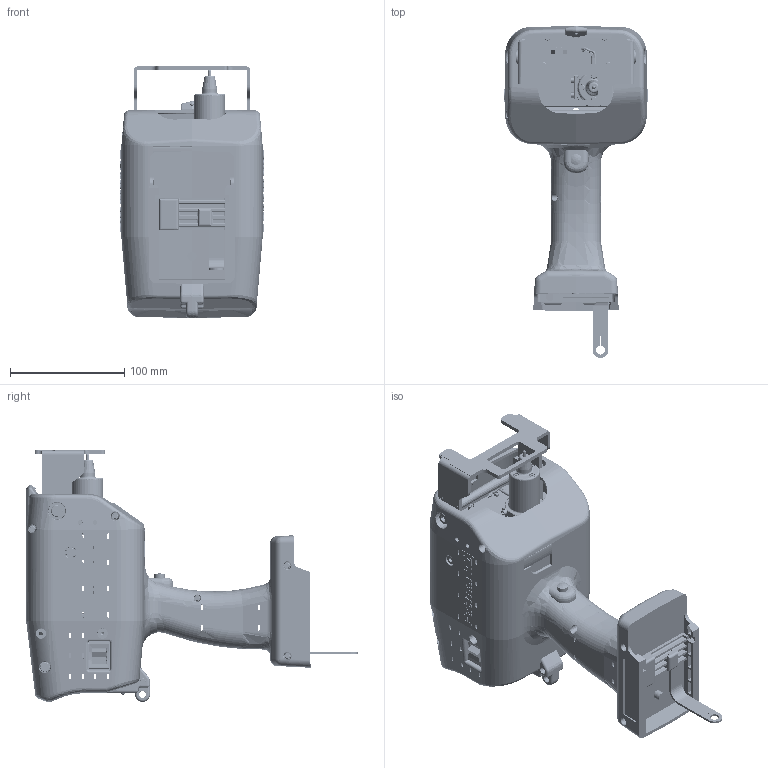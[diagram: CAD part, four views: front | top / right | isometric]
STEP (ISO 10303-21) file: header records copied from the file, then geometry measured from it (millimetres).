
FILE_DESCRIPTION (( 'STEP AP203' ), '1' );
FILE_NAME ('Patmark2 v1 -A AC.STEP', '2026-07-08T23:12:55', ( '' ), ( '' ), 'SwSTEP 2.0', 'SolidWorks 2023', '' );
FILE_SCHEMA (( 'CONFIG_CONTROL_DESIGN' ));
Length unit declared in the file: millimetre
Products named in the file (66): 140000340129 取付枠(樹脂); TCQ-G-00003-10 v1 ソレノイド取付板; TCQ-G-00001-5 v3 ソレノイドカバー; cap3_6; TCQ-K3-02700G-25 ナットホルダーカバー; TCQ-G-00001-7 ボビン座金上; nut4 1種; 140000600181 取付枠(SUS板); NBd3_6; TCQ-K3-02700G-5B ピン(超硬); E3; TCQ-K3-02700G-5A ピンヘッド; 140000480596 ロッカー; Patmark2 v1 -A AC; TCQ-K3-01663G-19 第2シャッター; PC2664-3R LED LED基板; cap25_12; cap25_6 SUS; cap3_4; TCQ-G-00001-6 スペーサー; SW25; Patmark ソレノイドブロック v2 PM3D用; XARR-02V リセプタクルハウジング; caps25_5 SUS; TCQ-K3-01663G-21 第4シャッター; TCQ-K3-01663G-37 v1 X軸ベルト押え; XAP-02V-1 プラグハウジング; TCQ-K3-02700G-5 打刻ピン; cap25_4; TCQ-G-00001-4 v2 ピンホルダー; cap5_12; PC2664-3R MB3-4-IN INRET基板; sara2_4; TCQ-G-00001-27 ボタントップ; TCQ-K3-01663G-28 SUSガイドすべり止めゴム; NB2_3; NB25_3; TCQ-G-00001-H3  SOLケーブル; NB25_4; TCQ-G-00003-06 v1 SUS打刻ガイド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
Assembly tree (102 placements, depth 4):
  Patmark2 v1 -A AC
    TCQ-K3-01663G-18 v2 第1シャッター
    TCQ-K3-01663G-19 第2シャッター
    TCQ-K3-01663G-20 第3シャッター
    TCQ-K3-01663G-21 第4シャッター
    TCQ-K3-01663G-22 第5シャッター
    TCT-00151-03 01 アルミフレーム(Patmark2)
    TCQ-K3-01663G-37 v1 X軸ベルト押え
    TCQ-K3-01663G-12 X軸センサ取付板
    TCQ-K3-01663G-15 v2 レール1(後)
    TCQ-K3-01663G-16 v3 レール2(前)
    TCQ-K3-01663G-23 v2 底板
    TCQ-K3-02700G-13 金属ワッシャ1 1t  x3
    TCQ-K3-02700G-25 ナットホルダーカバー
    TCQ-G-00001-27 ボタントップ
    TCQ-G-00001-30 LEDカバー
    TCQ-G-00001-31 USBキャップ_ﾊﾞﾝﾄﾞ付-1
    TCQ-G-00001-32 バッテリーキャップ
    PC2664-3R MB3-4-IN INRET基板
    PC2664-3R LED LED基板
    OSW54K3131A 白色LED
    バッテリー端子
    8HD1011-Z ロッカースイッチ
      140000600181 取付枠(SUS板)
      140000340129 取付枠(樹脂)
      8HD1011-Z ロッカースイッチ
      140000480596 ロッカー
    Patmark ソレノイドブロック v2 PM3D用
      TCQ-G-00001-4 v2 ピンホルダー
      TCQ-G-00001-5 v3 ソレノイドカバー
      TCQ-G-00001-6 スペーサー
      TCQ-G-00001-7 ボビン座金上
      TCQ-G-00003-10 v1 ソレノイド取付板
      TCQ-K3-02700G-5 打刻ピン
        TCQ-K3-02700G-5A ピンヘッド
        TCQ-K3-02700G-5B ピン(超硬)
      54B-030605 オイレスブッシュ
      TCQ-G-00001-H3  SOLケーブル
      cap25_10 SUS
      caps25_5 SUS  x4
      cap25_6 SUS  x4
      SW25  x4
      caps25_6 SUS  x4
    TCT-00151-01 01 右カバー(Patmark2)
    TCT-00151-02 01 左カバー(Patmark2)
    TCT-00151-04 02 ブラケット取付棒(Patmark2)
    TCT-00151-05 03 ブラケット取付棒(Patmark2)
    TCQ-G-00003-06 v1 SUS打刻ガイド
    TCQ-K3-01663G-28 SUSガイドすべり止めゴム
    XARR-02V リセプタクルハウジング
    XAP-02V-1 プラグハウジング
    cap25_4  x6
    cap25_12  x6
    cap3_4
    cap3_6  x2
    cap5_12  x4
    capw6_15  x2
    NB2_3  x2
    NB2_5
    NB25_3  x2
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Bounding box: 125.6 x 290.9 x 221 mm (x, y, z)
Volume: 576640.2 mm3; surface area: 432461.8 mm2
Topology: 124 solids, 125 shells, 6556 faces, 16718 edges, 10643 vertices
Faces by surface type: plane 3228, cylinder 1563, bspline 934, cone 733, torus 59, sphere 39
Entity records: 228552 total; most frequent: CARTESIAN_POINT 87599, ORIENTED_EDGE 29878, DIRECTION 23999, EDGE_CURVE 14939, VERTEX_POINT 9567, LINE 8679, VECTOR 8679, AXIS2_PLACEMENT_3D 7660
